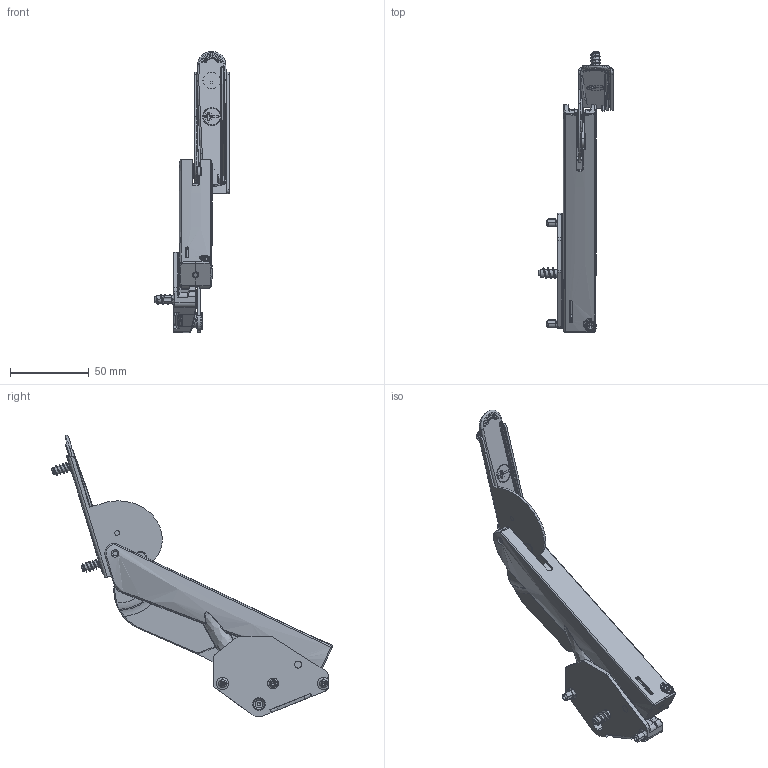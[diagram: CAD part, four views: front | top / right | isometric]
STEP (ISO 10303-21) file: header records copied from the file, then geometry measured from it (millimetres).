
FILE_DESCRIPTION((''),'2;1');
FILE_NAME('V12_ASM','2020-04-02T20:37:14',('7ke06'),('Kesseboehmer'),'CREO PARAMETRIC BY PTC INC, 2019444','CREO PARAMETRIC BY PTC INC, 2019444','');
FILE_SCHEMA(('AUTOMOTIVE_DESIGN { 1 0 10303 214 1 1 1 1 }'));
Products named in the file (31): FRONT_FREE_SPACE_ASM; K0000000938; DAMPFER__FREE_SPACE; DAMPFER_STANGE_FREE_SPACE; K0000000941_GEN_ASM; K0000000906; K0000000919; K0000000916; K0000000917; KRAFTEINSTELLUNG_FREE_SPACE_ASM; ARM1_FREE_SPACE_ASM; K0000000909; K0000000920; K0000000910; ARM2_FREE_SPACE_ASM; K0000000978; K0000001017; K0000000915; K0000000918; KORPUSANBINDUNG_FREE_SPACE_ASM; K0000000905; ROLLEN_FREE_SPACE_ASM; 110985_GEN_KURVENSCHEIBE; K0000000908; K0000000912; K0000000911; 09_0035_401_004_GEN; K0000000914; K0000000985; FRONTANBINDUNG_ZSB_FREE_SPACE_ASM; V12_ASM
Assembly tree (31 placements, depth 4):
  V12_ASM
    FRONT_FREE_SPACE_ASM
    ARM1_FREE_SPACE_ASM
      K0000000938
      K0000000941_GEN_ASM
        DAMPFER__FREE_SPACE
        DAMPFER_STANGE_FREE_SPACE
      K0000000906
      K0000000919
      KRAFTEINSTELLUNG_FREE_SPACE_ASM
        K0000000916
        K0000000917
    ARM2_FREE_SPACE_ASM
      K0000000909
      K0000000920
      K0000000910
    KORPUSANBINDUNG_FREE_SPACE_ASM
      K0000000978
      K0000001017
      K0000000915
      K0000000918
    ROLLEN_FREE_SPACE_ASM
      K0000000905
    FRONTANBINDUNG_ZSB_FREE_SPACE_ASM
      110985_GEN_KURVENSCHEIBE
      K0000000908
      K0000000912
      K0000000911
      09_0035_401_004_GEN
      K0000000914  x2
      K0000000985
Bounding box: 47.2 x 177.91 x 178.25 mm (x, y, z)
Volume: 72889.2 mm3; surface area: 62771.8 mm2
Topology: 23 solids, 23 shells, 1590 faces, 4146 edges, 2808 vertices
Faces by surface type: plane 540, cylinder 450, bspline 339, cone 118, torus 93, extrusion 40, sphere 6, revolution 4
Entity records: 80009 total; most frequent: CARTESIAN_POINT 31998, ORIENTED_EDGE 7678, DIRECTION 6772, EDGE_CURVE 3839, PRESENTATION_STYLE_ASSIGNMENT 3533, STYLED_ITEM 3511, CURVE_STYLE 3498, AXIS2_PLACEMENT_3D 2432
